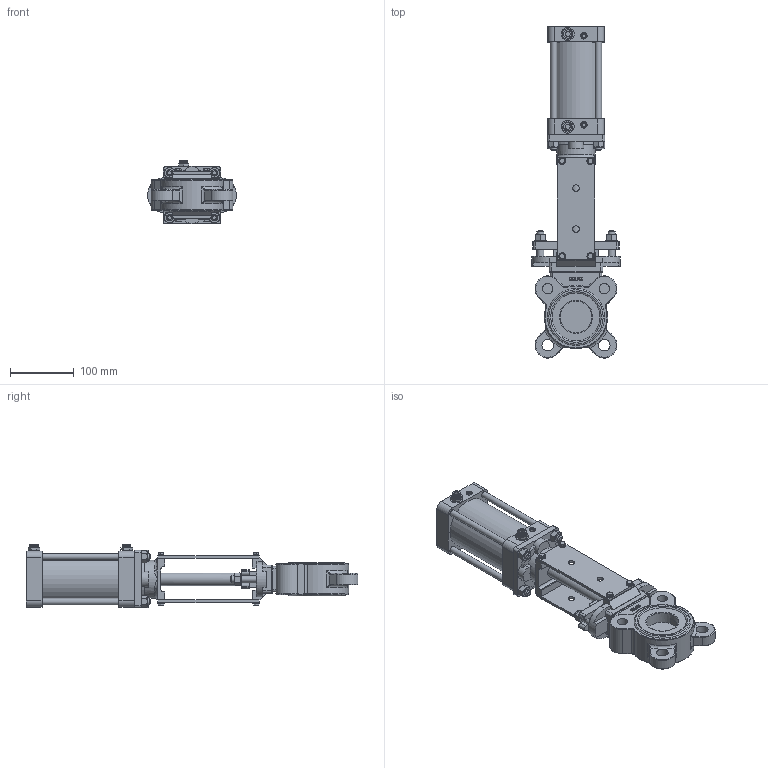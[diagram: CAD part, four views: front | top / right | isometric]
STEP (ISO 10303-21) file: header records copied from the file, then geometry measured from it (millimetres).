
FILE_DESCRIPTION(/* description */ ('D040-07406','CAx-IF Rec.Pracs.---Representation and Presentation of Product Manufacturing Information (PMI)---4.0---2014-10-13'),/* implementation_level */ '2;1');
FILE_NAME(/* name */ '',/* time_stamp */ '2026-03-13T23:17:13+03:00',/* author */ ('DN.RU'),/* organization */ ('DN.RU'),/* preprocessor_version */ 'ST-DEVELOPER v20',/* originating_system */ 'Autodesk Inventor 2025',/* authorisation */ '');
FILE_SCHEMA (('AP242_MANAGED_MODEL_BASED_3D_ENGINEERING_MIM_LF { 1 0 10303 442 1 1 4 }'));
Length unit declared in the file: millimetre
Products named in the file (1): GVKR1331E-2W-Fb-2P
Bounding box: 139 x 519.12 x 100 mm (x, y, z)
Volume: 2003976.6 mm3; surface area: 257165.8 mm2
Topology: 1 solids, 9 shells, 926 faces, 2225 edges, 1375 vertices
Faces by surface type: plane 504, cylinder 204, cone 130, torus 45, bspline 43
Full cylindrical faces by diameter (mm): 5 x10, 6 x8, 6.4 x8, 8 x12, 10 x18, 11 x14, 12 x2, 13 x6, 16 x4, 18 x4, 20 x3, 40 x1, 50 x2, 60 x1, 80 x1
Entity records: 28586 total; most frequent: CARTESIAN_POINT 6480, ORIENTED_EDGE 4418, DIRECTION 4402, EDGE_CURVE 2209, AXIS2_PLACEMENT_3D 1656, VERTEX_POINT 1375, LINE 1090, VECTOR 1090
